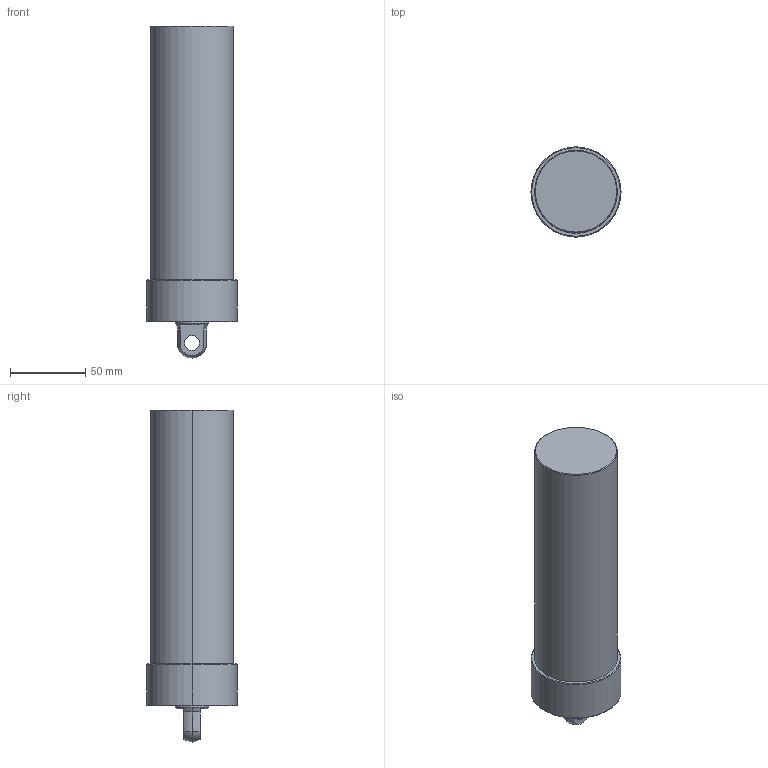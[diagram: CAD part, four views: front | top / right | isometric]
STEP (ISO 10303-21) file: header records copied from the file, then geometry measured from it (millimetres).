
FILE_DESCRIPTION (( 'STEP AP203' ), '1' );
FILE_NAME ('CLLU-055GP-140.STEP', '2020-01-06T07:47:46', ( '' ), ( '' ), 'SwSTEP 2.0', 'SolidWorks 2015', '' );
FILE_SCHEMA (( 'CONFIG_CONTROL_DESIGN' ));
Length unit declared in the file: millimetre
Products named in the file (1): CLLU-055GP-140
Bounding box: 60 x 60 x 221 mm (x, y, z)
Volume: 482912.6 mm3; surface area: 42454.8 mm2
Topology: 1 solids, 1 shells, 58 faces, 131 edges, 75 vertices
Faces by surface type: cylinder 23, cone 18, plane 9, torus 6, sphere 2
Entity records: 1658 total; most frequent: DIRECTION 311, CARTESIAN_POINT 269, ORIENTED_EDGE 246, AXIS2_PLACEMENT_3D 133, EDGE_CURVE 123, VERTEX_POINT 75, CIRCLE 74, EDGE_LOOP 68
